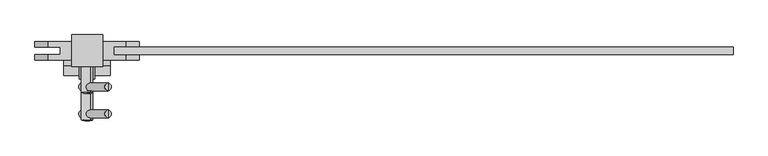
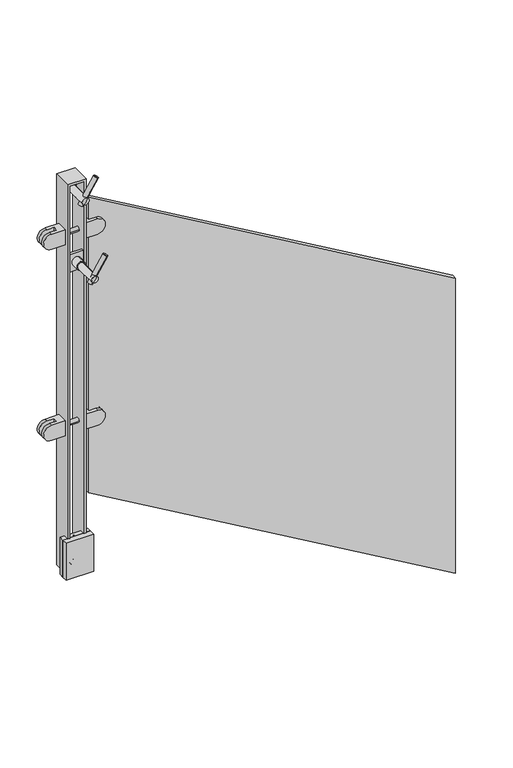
"""IFC4 building model written with IfcOpenShell, lengths in millimetres: proxy geometry, LIVERS_ICN - Glass Panel : LIVERS_ICN - Glass Panel."""

from ifc_helpers import new_model, si_unit, point, frame, origin, place, context, project, spatial, polyline, circle_curve, ellipse_curve, trimmed, outline, extrude, faceted_brep, source, transform, mapped, element, save
from ifc_brep_helpers import plane_surface, cylinder_surface, revolved_surface, advanced_brep


def building_element_proxy_67c162b6(model_context):
    return source(origin(), model_context, "Body", "SolidModel", [
        advanced_brep(
        [(121.9305785, 60.3249609, 1286.8628589), (115.2006038, 60.3249609, 1276.0926481), (108.4706292, 60.3249609, 1265.3224373), (121.9305785, 38.0999609, 1286.8628589), (108.4706292, 38.0999609, 1265.3224373), (115.2006038, 38.0999609, 1276.0926481)],
        [
            (0, 1),
            (1, 2),
            (2, 0, circle_curve(frame((115.2006038, 60.3249609, 1276.0926481), z_axis=(0.0, 1.0, 0.0), x_axis=(-0.5299192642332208, 0.0, -0.8480480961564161)), 12.7)),
            (0, 2, circle_curve(frame((115.2006038, 60.3249609, 1276.0926481), z_axis=(0.0, 1.0, 0.0), x_axis=(-0.5299192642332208, 0.0, -0.8480480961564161)), 12.7)),
            (3, 0),
            (2, 4),
            (4, 3, circle_curve(frame((115.2006038, 38.0999609, 1276.0926481), z_axis=(0.0, 1.0, 0.0), x_axis=(-0.5299192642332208, 0.0, -0.8480480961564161)), 12.7)),
            (3, 4, circle_curve(frame((115.2006038, 38.0999609, 1276.0926481), z_axis=(0.0, 1.0, 0.0), x_axis=(-0.5299192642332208, 0.0, -0.8480480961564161)), 12.7)),
            (5, 3),
            (4, 5),
        ],
        [
            plane_surface(frame((115.2006038, 60.3249609, 1276.0926481), z_axis=(0.0, 1.0, 0.0), x_axis=(-0.5299192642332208, 0.0, -0.8480480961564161))),
            cylinder_surface(frame((115.2006038, 69.3828283, 1276.0926481), z_axis=(0.0, -1.0, 0.0), x_axis=(-0.5299192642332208, 0.0, -0.8480480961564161)), 12.7),
            plane_surface(frame((115.2006038, 38.0999609, 1276.0926481), z_axis=(0.0, -1.0, 0.0), x_axis=(-0.5299192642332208, 0.0, -0.8480480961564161))),
        ],
        [
            (0, [[1, 2, 3]]),
            (0, [[-2, -1, 4]]),
            (1, [[5, -3, 6, 7]]),
            (1, [[-6, -4, -5, 8]]),
            (2, [[9, -7, 10]]),
            (2, [[-10, -8, -9]]),
        ],
    ),
        advanced_brep(
        [(149.4682741, -25.4004131, 1330.932384), (149.4682741, -19.0504161, 1330.932384), (149.4682741, -12.7004191, 1330.932384), (106.8648488, -25.4004131, 1262.7526515), (106.8648488, -12.7004191, 1262.7526515), (106.8648488, -19.0504161, 1262.7526515)],
        [
            (0, 1),
            (1, 2),
            (2, 0, circle_curve(frame((149.4682741, -19.0504161, 1330.932384), z_axis=(0.5299192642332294, 0.0, 0.8480480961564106), x_axis=(0.0, 1.0, 0.0)), 6.349997)),
            (0, 2, circle_curve(frame((149.4682741, -19.0504161, 1330.932384), z_axis=(0.5299192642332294, 0.0, 0.8480480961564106), x_axis=(0.0, 1.0, 0.0)), 6.349997)),
            (3, 0),
            (2, 4),
            (4, 3, circle_curve(frame((106.8648488, -19.0504161, 1262.7526515), z_axis=(0.5299192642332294, 0.0, 0.8480480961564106), x_axis=(0.0, 1.0, 0.0)), 6.349997)),
            (3, 4, circle_curve(frame((106.8648488, -19.0504161, 1262.7526515), z_axis=(0.5299192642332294, 0.0, 0.8480480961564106), x_axis=(0.0, 1.0, 0.0)), 6.349997)),
            (5, 3),
            (4, 5),
        ],
        [
            plane_surface(frame((149.4682741, -19.0504161, 1330.932384), z_axis=(0.5299192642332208, 0.0, 0.8480480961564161), x_axis=(0.0, 1.0, 0.0))),
            cylinder_surface(frame((156.8081895, -19.0504161, 1342.6787041), z_axis=(-0.5299192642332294, 0.0, -0.8480480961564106), x_axis=(0.0, 1.0, 0.0)), 6.349997),
            plane_surface(frame((106.8648488, -19.0504161, 1262.7526515), z_axis=(-0.5299192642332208, 0.0, -0.8480480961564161), x_axis=(0.0, 1.0, 0.0))),
        ],
        [
            (0, [[1, 2, 3]]),
            (0, [[-2, -1, 4]]),
            (1, [[5, -3, 6, 7]]),
            (1, [[-6, -4, -5, 8]]),
            (2, [[9, -7, 10]]),
            (2, [[-10, -8, -9]]),
        ],
    ),
        advanced_brep(
        [(115.2006038, -30.1375464, 1276.0926481), (120.2480848, -28.5500464, 1284.1703062), (110.1531229, -28.5500464, 1268.01499), (120.2480848, 38.0999609, 1284.1703062), (115.2006038, 38.0999609, 1276.0926481), (110.1531229, 38.0999609, 1268.01499)],
        [
            (0, 1, circle_curve(frame((115.2006038, -0.7687964, 1276.0926481), z_axis=(-0.8480480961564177, 0.0, 0.529919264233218), x_axis=(0.0, 1.0, 0.0)), 29.36875)),
            (1, 2, circle_curve(frame((115.2006038, -28.5500464, 1276.0926481), z_axis=(0.0, -1.0, 0.0), x_axis=(-0.5299192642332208, 0.0, -0.8480480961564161)), 9.525)),
            (2, 0, circle_curve(frame((115.2006038, -0.7687964, 1276.0926481), z_axis=(-0.8480480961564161, 0.0, 0.5299192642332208), x_axis=(0.0, 1.0, 0.0)), 29.36875)),
            (2, 1, circle_curve(frame((115.2006038, -28.5500464, 1276.0926481), z_axis=(0.0, -1.0, 0.0), x_axis=(-0.5299192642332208, 0.0, -0.8480480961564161)), 9.525)),
            (3, 4),
            (4, 5),
            (5, 3, circle_curve(frame((115.2006038, 38.0999609, 1276.0926481), z_axis=(0.0, 1.0, 0.0), x_axis=(-0.5299192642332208, 0.0, -0.8480480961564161)), 9.525)),
            (3, 5, circle_curve(frame((115.2006038, 38.0999609, 1276.0926481), z_axis=(0.0, 1.0, 0.0), x_axis=(-0.5299192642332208, 0.0, -0.8480480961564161)), 9.525)),
            (1, 3),
            (5, 2),
        ],
        [
            revolved_surface(trimmed(ellipse_curve(frame((115.2006038, -0.7687964, 1276.0926481), z_axis=(-0.8480480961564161, 0.0, 0.5299192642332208), x_axis=(0.0, 1.0, 0.0)), 29.36875, 29.36875), [point((110.1531229, -28.5500464, 1268.01499))], [point((115.2006038, -30.1375464, 1276.0926481))], True, "CARTESIAN"), (115.2006038, 30.3031204, 1276.0926481), (0.0, -1.0, 0.0)),
            plane_surface(frame((115.2006038, 38.0999609, 1276.0926481), z_axis=(0.0, 1.0, 0.0), x_axis=(-0.5299192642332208, 0.0, -0.8480480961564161))),
            cylinder_surface(frame((115.2006038, 30.3031204, 1276.0926481), z_axis=(0.0, -1.0, 0.0), x_axis=(-0.5299192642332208, 0.0, -0.8480480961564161)), 9.525),
        ],
        [
            (0, [[1, 2, 3]]),
            (0, [[-3, 4, -1]]),
            (1, [[5, 6, 7]]),
            (1, [[-6, -5, 8]]),
            (2, [[9, -7, 10, -2]]),
            (2, [[-10, -8, -9, -4]]),
        ],
    ),
        extrude(outline(polyline([(134.2506038, 66.6749609), (134.2506038, 60.3249609), (96.1506038, 60.3249609), (96.1506038, 66.6749609), (134.2506038, 66.6749609)])), frame((0.0, 0.0, 1250.6926481), z_axis=(0.0, 0.0, 1.0), x_axis=(1.0, 0.0, 0.0)), (0.0, 0.0, 1.0), 50.8),
        advanced_brep(
        [(121.9305785, 15.875, 1085.5406047), (115.2006038, 15.875, 1074.7703939), (108.4706292, 15.875, 1064.000183), (121.9305785, -6.35, 1085.5406047), (108.4706292, -6.35, 1064.000183), (115.2006038, -6.35, 1074.7703939)],
        [
            (0, 1),
            (1, 2),
            (2, 0, circle_curve(frame((115.2006038, 15.875, 1074.7703939), z_axis=(0.0, 1.0, 0.0), x_axis=(-0.5299192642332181, 0.0, -0.8480480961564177)), 12.7)),
            (0, 2, circle_curve(frame((115.2006038, 15.875, 1074.7703939), z_axis=(0.0, 1.0, 0.0), x_axis=(-0.5299192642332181, 0.0, -0.8480480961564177)), 12.7)),
            (3, 0),
            (2, 4),
            (4, 3, circle_curve(frame((115.2006038, -6.35, 1074.7703939), z_axis=(0.0, 1.0, 0.0), x_axis=(-0.5299192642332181, 0.0, -0.8480480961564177)), 12.7)),
            (3, 4, circle_curve(frame((115.2006038, -6.35, 1074.7703939), z_axis=(0.0, 1.0, 0.0), x_axis=(-0.5299192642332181, 0.0, -0.8480480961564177)), 12.7)),
            (5, 3),
            (4, 5),
        ],
        [
            plane_surface(frame((115.2006038, 15.875, 1074.7703939), z_axis=(0.0, 1.0, 0.0), x_axis=(-0.5299192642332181, 0.0, -0.8480480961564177))),
            cylinder_surface(frame((115.2006038, 24.9328674, 1074.7703939), z_axis=(0.0, -1.0, 0.0), x_axis=(-0.5299192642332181, 0.0, -0.8480480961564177)), 12.7),
            plane_surface(frame((115.2006038, -6.35, 1074.7703939), z_axis=(0.0, -1.0, 0.0), x_axis=(-0.5299192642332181, 0.0, -0.8480480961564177))),
        ],
        [
            (0, [[1, 2, 3]]),
            (0, [[-2, -1, 4]]),
            (1, [[5, -3, 6, 7]]),
            (1, [[-6, -4, -5, 8]]),
            (2, [[9, -7, 10]]),
            (2, [[-10, -8, -9]]),
        ],
    ),
        advanced_brep(
        [(149.4682741, -69.850374, 1129.6101298), (149.4682741, -63.500377, 1129.6101298), (149.4682741, -57.15038, 1129.6101298), (106.8648488, -69.850374, 1061.4303972), (106.8648488, -57.15038, 1061.4303972), (106.8648488, -63.500377, 1061.4303972)],
        [
            (0, 1),
            (1, 2),
            (2, 0, circle_curve(frame((149.4682741, -63.500377, 1129.6101298), z_axis=(0.5299192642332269, 0.0, 0.8480480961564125), x_axis=(0.0, 1.0, 0.0)), 6.349997)),
            (0, 2, circle_curve(frame((149.4682741, -63.500377, 1129.6101298), z_axis=(0.5299192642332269, 0.0, 0.8480480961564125), x_axis=(0.0, 1.0, 0.0)), 6.349997)),
            (3, 0),
            (2, 4),
            (4, 3, circle_curve(frame((106.8648488, -63.500377, 1061.4303972), z_axis=(0.5299192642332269, 0.0, 0.8480480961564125), x_axis=(0.0, 1.0, 0.0)), 6.349997)),
            (3, 4, circle_curve(frame((106.8648488, -63.500377, 1061.4303972), z_axis=(0.5299192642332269, 0.0, 0.8480480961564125), x_axis=(0.0, 1.0, 0.0)), 6.349997)),
            (5, 3),
            (4, 5),
        ],
        [
            plane_surface(frame((149.4682741, -63.500377, 1129.6101298), z_axis=(0.5299192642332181, 0.0, 0.8480480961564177), x_axis=(0.0, 1.0, 0.0))),
            cylinder_surface(frame((156.8081895, -63.500377, 1141.3564499), z_axis=(-0.5299192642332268, 0.0, -0.8480480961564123), x_axis=(0.0, 1.0, 0.0)), 6.349997),
            plane_surface(frame((106.8648488, -63.500377, 1061.4303972), z_axis=(-0.5299192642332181, 0.0, -0.8480480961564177), x_axis=(0.0, 1.0, 0.0))),
        ],
        [
            (0, [[1, 2, 3]]),
            (0, [[-2, -1, 4]]),
            (1, [[5, -3, 6, 7]]),
            (1, [[-6, -4, -5, 8]]),
            (2, [[9, -7, 10]]),
            (2, [[-10, -8, -9]]),
        ],
    ),
        advanced_brep(
        [(115.2006038, -74.5875073, 1074.7703939), (120.2480848, -73.0000073, 1082.848052), (110.1531229, -73.0000073, 1066.6927357), (120.2480848, -6.35, 1082.848052), (115.2006038, -6.35, 1074.7703939), (110.1531229, -6.35, 1066.6927357)],
        [
            (0, 1, circle_curve(frame((115.2006038, -45.2187573, 1074.7703939), z_axis=(-0.8480480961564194, 0.0, 0.5299192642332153), x_axis=(0.0, 1.0, 0.0)), 29.36875)),
            (1, 2, circle_curve(frame((115.2006038, -73.0000073, 1074.7703939), z_axis=(0.0, -1.0, 0.0), x_axis=(-0.5299192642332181, 0.0, -0.8480480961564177)), 9.525)),
            (2, 0, circle_curve(frame((115.2006038, -45.2187573, 1074.7703939), z_axis=(-0.8480480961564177, 0.0, 0.5299192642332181), x_axis=(0.0, 1.0, 0.0)), 29.36875)),
            (2, 1, circle_curve(frame((115.2006038, -73.0000073, 1074.7703939), z_axis=(0.0, -1.0, 0.0), x_axis=(-0.5299192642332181, 0.0, -0.8480480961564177)), 9.525)),
            (3, 4),
            (4, 5),
            (5, 3, circle_curve(frame((115.2006038, -6.35, 1074.7703939), z_axis=(0.0, 1.0, 0.0), x_axis=(-0.5299192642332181, 0.0, -0.8480480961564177)), 9.525)),
            (3, 5, circle_curve(frame((115.2006038, -6.35, 1074.7703939), z_axis=(0.0, 1.0, 0.0), x_axis=(-0.5299192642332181, 0.0, -0.8480480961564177)), 9.525)),
            (1, 3),
            (5, 2),
        ],
        [
            revolved_surface(trimmed(ellipse_curve(frame((115.2006038, -45.2187573, 1074.7703939), z_axis=(-0.8480480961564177, 0.0, 0.5299192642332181), x_axis=(0.0, 1.0, 0.0)), 29.36875, 29.36875), [point((110.1531229, -73.0000073, 1066.6927357))], [point((115.2006038, -74.5875073, 1074.7703939))], True, "CARTESIAN"), (115.2006038, -14.1468405, 1074.7703939), (0.0, -1.0, 0.0)),
            plane_surface(frame((115.2006038, -6.35, 1074.7703939), z_axis=(0.0, 1.0, 0.0), x_axis=(-0.5299192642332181, 0.0, -0.8480480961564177))),
            cylinder_surface(frame((115.2006038, -14.1468405, 1074.7703939), z_axis=(0.0, -1.0, 0.0), x_axis=(-0.5299192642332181, 0.0, -0.8480480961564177)), 9.525),
        ],
        [
            (0, [[1, 2, 3]]),
            (0, [[-3, 4, -1]]),
            (1, [[5, 6, 7]]),
            (1, [[-6, -5, 8]]),
            (2, [[9, -7, 10, -2]]),
            (2, [[-10, -8, -9, -4]]),
        ],
    ),
        extrude(outline(polyline([(134.2506038, 22.225), (134.2506038, 15.875), (96.1506038, 15.875), (96.1506038, 22.225), (134.2506038, 22.225)])), frame((0.0, 0.0, 1049.3703939), z_axis=(0.0, 0.0, 1.0), x_axis=(1.0, 0.0, 0.0)), (0.0, 0.0, 1.0), 50.8),
        advanced_brep(
        [(89.8006038, 55.5624457, 611.1115127), (89.8006038, 25.3999457, 611.1115127), (89.8006038, 25.3999457, 566.6615127), (89.8006038, 55.5624457, 566.6615127), (51.5995099, 55.5624457, 566.6615127), (51.5995099, 55.5624457, 611.1115127), (51.5995099, 25.3999457, 566.6615127), (51.5995099, 34.1311957, 566.6615127), (70.9286846, 34.1311957, 566.6615127), (70.9286846, 46.8311957, 566.6615127), (51.5995099, 46.8311957, 566.6615127), (51.5995099, 25.3999457, 611.1115127), (51.5995099, 46.8311957, 611.1115127), (70.9286846, 46.8311957, 611.1115127), (70.9286846, 34.1311957, 611.1115127), (51.5995099, 34.1311957, 611.1115127)],
        [
            (0, 1),
            (1, 2),
            (2, 3),
            (3, 0),
            (3, 4),
            (4, 5, circle_curve(frame((51.5995099, 55.5624457, 588.8865127), z_axis=(0.0, 1.0, 0.0), x_axis=(0.0, 0.0, -1.0)), 22.225)),
            (5, 0),
            (2, 6),
            (6, 7),
            (7, 8),
            (8, 9),
            (9, 10),
            (10, 4),
            (1, 11),
            (11, 6, circle_curve(frame((51.5995099, 25.3999457, 588.8865127), z_axis=(0.0, -1.0, 0.0), x_axis=(0.0, 0.0, -1.0)), 22.225)),
            (5, 12),
            (12, 13),
            (13, 14),
            (14, 15),
            (15, 11),
            (13, 9),
            (8, 14),
            (12, 10, circle_curve(frame((51.5995099, 46.8311957, 588.8865127), z_axis=(0.0, -1.0, 0.0), x_axis=(0.0, 0.0, -1.0)), 22.225)),
            (7, 15, circle_curve(frame((51.5995099, 34.1311957, 588.8865127), z_axis=(0.0, 1.0, 0.0), x_axis=(0.0, 0.0, -1.0)), 22.225)),
        ],
        [
            plane_surface(frame((89.8006038, 55.5624457, 566.6615127), z_axis=(1.0, 0.0, 0.0), x_axis=(0.0, 0.0, 1.0))),
            plane_surface(frame((29.2975231, 55.5624457, 611.1115127), z_axis=(0.0, 1.0, 0.0), x_axis=(1.0, 0.0, 0.0))),
            plane_surface(frame((29.2975231, 55.5624457, 566.6615127), z_axis=(0.0, 0.0, -1.0), x_axis=(1.0, 0.0, 0.0))),
            plane_surface(frame((29.2975231, 25.3999457, 566.6615127), z_axis=(0.0, -1.0, 0.0), x_axis=(1.0, 0.0, 0.0))),
            plane_surface(frame((29.2975231, 25.3999457, 611.1115127), z_axis=(0.0, 0.0, 1.0), x_axis=(1.0, 0.0, 0.0))),
            plane_surface(frame((70.9286846, 46.8311957, 566.6615127), z_axis=(-1.0, 0.0, 0.0), x_axis=(0.0, 0.0, 1.0))),
            plane_surface(frame((29.2975231, 46.8311957, 611.1115127), z_axis=(0.0, -1.0, 0.0), x_axis=(1.0, 0.0, 0.0))),
            plane_surface(frame((29.2975231, 34.1311957, 566.6615127), z_axis=(0.0, 1.0, 0.0), x_axis=(1.0, 0.0, 0.0))),
            cylinder_surface(frame((51.5995099, 55.5624457, 588.8865127), z_axis=(0.0, 1.0, 0.0), x_axis=(0.0, 0.0, -1.0)), 22.225),
        ],
        [
            (0, [[1, 2, 3, 4]]),
            (1, [[-4, 5, 6, 7]]),
            (2, [[-3, 8, 9, 10, 11, 12, 13, -5]]),
            (3, [[-2, 14, 15, -8]]),
            (4, [[-1, -7, 16, 17, 18, 19, 20, -14]]),
            (5, [[21, -11, 22, -18]]),
            (6, [[-21, -17, 23, -12]]),
            (7, [[-22, -10, 24, -19]]),
            (8, [[-6, -13, -23, -16]]),
            (8, [[-9, -15, -20, -24]]),
        ],
    ),
        advanced_brep(
        [(140.6006038, 55.5624457, 611.1115127), (140.6006038, 55.5624457, 566.6615127), (140.6006038, 25.3999457, 566.6615127), (140.6006038, 25.3999457, 611.1115127), (178.8016978, 55.5624457, 611.1115127), (178.8016978, 55.5624457, 566.6615127), (178.8016978, 46.8311957, 566.6615127), (159.4725231, 46.8311957, 566.6615127), (159.4725231, 34.1311957, 566.6615127), (178.8016978, 34.1311957, 566.6615127), (178.8016978, 25.3999457, 566.6615127), (178.8016978, 25.3999457, 611.1115127), (178.8016978, 34.1311957, 611.1115127), (159.4725231, 34.1311957, 611.1115127), (159.4725231, 46.8311957, 611.1115127), (178.8016978, 46.8311957, 611.1115127)],
        [
            (0, 1),
            (1, 2),
            (2, 3),
            (3, 0),
            (0, 4),
            (4, 5, circle_curve(frame((178.8016978, 55.5624457, 588.8865127), z_axis=(0.0, 1.0, 0.0), x_axis=(0.0, 0.0, -1.0)), 22.225)),
            (5, 1),
            (5, 6),
            (6, 7),
            (7, 8),
            (8, 9),
            (9, 10),
            (10, 2),
            (10, 11, circle_curve(frame((178.8016978, 25.3999457, 588.8865127), z_axis=(0.0, -1.0, 0.0), x_axis=(0.0, 0.0, -1.0)), 22.225)),
            (11, 3),
            (11, 12),
            (12, 13),
            (13, 14),
            (14, 15),
            (15, 4),
            (13, 8),
            (7, 14),
            (6, 15, circle_curve(frame((178.8016978, 46.8311957, 588.8865127), z_axis=(0.0, -1.0, 0.0), x_axis=(0.0, 0.0, -1.0)), 22.225)),
            (12, 9, circle_curve(frame((178.8016978, 34.1311957, 588.8865127), z_axis=(0.0, 1.0, 0.0), x_axis=(0.0, 0.0, -1.0)), 22.225)),
        ],
        [
            plane_surface(frame((140.6006038, 55.5624457, 566.6615127), z_axis=(-1.0, 0.0, 0.0), x_axis=(0.0, 0.0, 1.0))),
            plane_surface(frame((201.1036846, 55.5624457, 611.1115127), z_axis=(0.0, 1.0, 0.0), x_axis=(-1.0, 0.0, 0.0))),
            plane_surface(frame((201.1036846, 55.5624457, 566.6615127), z_axis=(0.0, 0.0, -1.0), x_axis=(-1.0, 0.0, 0.0))),
            plane_surface(frame((201.1036846, 25.3999457, 566.6615127), z_axis=(0.0, -1.0, 0.0), x_axis=(-1.0, 0.0, 0.0))),
            plane_surface(frame((201.1036846, 25.3999457, 611.1115127), z_axis=(0.0, 0.0, 1.0), x_axis=(-1.0, 0.0, 0.0))),
            plane_surface(frame((159.4725231, 46.8311957, 566.6615127), z_axis=(1.0, 0.0, 0.0), x_axis=(0.0, 0.0, 1.0))),
            plane_surface(frame((201.1036846, 46.8311957, 611.1115127), z_axis=(0.0, -1.0, 0.0), x_axis=(-1.0, 0.0, 0.0))),
            plane_surface(frame((201.1036846, 34.1311957, 566.6615127), z_axis=(0.0, 1.0, 0.0), x_axis=(-1.0, 0.0, 0.0))),
            cylinder_surface(frame((178.8016978, 55.5624457, 588.8865127), z_axis=(0.0, 1.0, 0.0), x_axis=(0.0, 0.0, -1.0)), 22.225),
        ],
        [
            (0, [[1, 2, 3, 4]]),
            (1, [[5, 6, 7, -1]]),
            (2, [[-7, 8, 9, 10, 11, 12, 13, -2]]),
            (3, [[-13, 14, 15, -3]]),
            (4, [[-15, 16, 17, 18, 19, 20, -5, -4]]),
            (5, [[-18, 21, -10, 22]]),
            (6, [[-9, 23, -19, -22]]),
            (7, [[-17, 24, -11, -21]]),
            (8, [[-20, -23, -8, -6]]),
            (8, [[-24, -16, -14, -12]]),
        ],
    ),
        advanced_brep(
        [(89.8006038, 55.5624457, 1169.9115127), (89.8006038, 25.3999457, 1169.9115127), (89.8006038, 25.3999457, 1125.4615127), (89.8006038, 55.5624457, 1125.4615127), (51.5995099, 55.5624457, 1125.4615127), (51.5995099, 55.5624457, 1169.9115127), (51.5995099, 25.3999457, 1125.4615127), (51.5995099, 34.1311957, 1125.4615127), (70.9286846, 34.1311957, 1125.4615127), (70.9286846, 46.8311957, 1125.4615127), (51.5995099, 46.8311957, 1125.4615127), (51.5995099, 25.3999457, 1169.9115127), (51.5995099, 46.8311957, 1169.9115127), (70.9286846, 46.8311957, 1169.9115127), (70.9286846, 34.1311957, 1169.9115127), (51.5995099, 34.1311957, 1169.9115127)],
        [
            (0, 1),
            (1, 2),
            (2, 3),
            (3, 0),
            (3, 4),
            (4, 5, circle_curve(frame((51.5995099, 55.5624457, 1147.6865127), z_axis=(0.0, 1.0, 0.0), x_axis=(0.0, 0.0, -1.0)), 22.225)),
            (5, 0),
            (2, 6),
            (6, 7),
            (7, 8),
            (8, 9),
            (9, 10),
            (10, 4),
            (1, 11),
            (11, 6, circle_curve(frame((51.5995099, 25.3999457, 1147.6865127), z_axis=(0.0, -1.0, 0.0), x_axis=(0.0, 0.0, -1.0)), 22.225)),
            (5, 12),
            (12, 13),
            (13, 14),
            (14, 15),
            (15, 11),
            (13, 9),
            (8, 14),
            (12, 10, circle_curve(frame((51.5995099, 46.8311957, 1147.6865127), z_axis=(0.0, -1.0, 0.0), x_axis=(0.0, 0.0, -1.0)), 22.225)),
            (7, 15, circle_curve(frame((51.5995099, 34.1311957, 1147.6865127), z_axis=(0.0, 1.0, 0.0), x_axis=(0.0, 0.0, -1.0)), 22.225)),
        ],
        [
            plane_surface(frame((89.8006038, 55.5624457, 1125.4615127), z_axis=(1.0, 0.0, 0.0), x_axis=(0.0, 0.0, 1.0))),
            plane_surface(frame((29.2975231, 55.5624457, 1169.9115127), z_axis=(0.0, 1.0, 0.0), x_axis=(1.0, 0.0, 0.0))),
            plane_surface(frame((29.2975231, 55.5624457, 1125.4615127), z_axis=(0.0, 0.0, -1.0), x_axis=(1.0, 0.0, 0.0))),
            plane_surface(frame((29.2975231, 25.3999457, 1125.4615127), z_axis=(0.0, -1.0, 0.0), x_axis=(1.0, 0.0, 0.0))),
            plane_surface(frame((29.2975231, 25.3999457, 1169.9115127), z_axis=(0.0, 0.0, 1.0), x_axis=(1.0, 0.0, 0.0))),
            plane_surface(frame((70.9286846, 46.8311957, 1125.4615127), z_axis=(-1.0, 0.0, 0.0), x_axis=(0.0, 0.0, 1.0))),
            plane_surface(frame((29.2975231, 46.8311957, 1169.9115127), z_axis=(0.0, -1.0, 0.0), x_axis=(1.0, 0.0, 0.0))),
            plane_surface(frame((29.2975231, 34.1311957, 1125.4615127), z_axis=(0.0, 1.0, 0.0), x_axis=(1.0, 0.0, 0.0))),
            cylinder_surface(frame((51.5995099, 55.5624457, 1147.6865127), z_axis=(0.0, 1.0, 0.0), x_axis=(0.0, 0.0, -1.0)), 22.225),
        ],
        [
            (0, [[1, 2, 3, 4]]),
            (1, [[-4, 5, 6, 7]]),
            (2, [[-3, 8, 9, 10, 11, 12, 13, -5]]),
            (3, [[-2, 14, 15, -8]]),
            (4, [[-1, -7, 16, 17, 18, 19, 20, -14]]),
            (5, [[21, -11, 22, -18]]),
            (6, [[-21, -17, 23, -12]]),
            (7, [[-22, -10, 24, -19]]),
            (8, [[-6, -13, -23, -16]]),
            (8, [[-9, -15, -20, -24]]),
        ],
    ),
        advanced_brep(
        [(140.6006038, 55.5624457, 1169.9115127), (140.6006038, 55.5624457, 1125.4615127), (140.6006038, 25.3999457, 1125.4615127), (140.6006038, 25.3999457, 1169.9115127), (178.8016978, 55.5624457, 1169.9115127), (178.8016978, 55.5624457, 1125.4615127), (178.8016978, 46.8311957, 1125.4615127), (159.4725231, 46.8311957, 1125.4615127), (159.4725231, 34.1311957, 1125.4615127), (178.8016978, 34.1311957, 1125.4615127), (178.8016978, 25.3999457, 1125.4615127), (178.8016978, 25.3999457, 1169.9115127), (178.8016978, 34.1311957, 1169.9115127), (159.4725231, 34.1311957, 1169.9115127), (159.4725231, 46.8311957, 1169.9115127), (178.8016978, 46.8311957, 1169.9115127)],
        [
            (0, 1),
            (1, 2),
            (2, 3),
            (3, 0),
            (0, 4),
            (4, 5, circle_curve(frame((178.8016978, 55.5624457, 1147.6865127), z_axis=(0.0, 1.0, 0.0), x_axis=(0.0, 0.0, -1.0)), 22.225)),
            (5, 1),
            (5, 6),
            (6, 7),
            (7, 8),
            (8, 9),
            (9, 10),
            (10, 2),
            (10, 11, circle_curve(frame((178.8016978, 25.3999457, 1147.6865127), z_axis=(0.0, -1.0, 0.0), x_axis=(0.0, 0.0, -1.0)), 22.225)),
            (11, 3),
            (11, 12),
            (12, 13),
            (13, 14),
            (14, 15),
            (15, 4),
            (13, 8),
            (7, 14),
            (6, 15, circle_curve(frame((178.8016978, 46.8311957, 1147.6865127), z_axis=(0.0, -1.0, 0.0), x_axis=(0.0, 0.0, -1.0)), 22.225)),
            (12, 9, circle_curve(frame((178.8016978, 34.1311957, 1147.6865127), z_axis=(0.0, 1.0, 0.0), x_axis=(0.0, 0.0, -1.0)), 22.225)),
        ],
        [
            plane_surface(frame((140.6006038, 55.5624457, 1125.4615127), z_axis=(-1.0, 0.0, 0.0), x_axis=(0.0, 0.0, 1.0))),
            plane_surface(frame((201.1036846, 55.5624457, 1169.9115127), z_axis=(0.0, 1.0, 0.0), x_axis=(-1.0, 0.0, 0.0))),
            plane_surface(frame((201.1036846, 55.5624457, 1125.4615127), z_axis=(0.0, 0.0, -1.0), x_axis=(-1.0, 0.0, 0.0))),
            plane_surface(frame((201.1036846, 25.3999457, 1125.4615127), z_axis=(0.0, -1.0, 0.0), x_axis=(-1.0, 0.0, 0.0))),
            plane_surface(frame((201.1036846, 25.3999457, 1169.9115127), z_axis=(0.0, 0.0, 1.0), x_axis=(-1.0, 0.0, 0.0))),
            plane_surface(frame((159.4725231, 46.8311957, 1125.4615127), z_axis=(1.0, 0.0, 0.0), x_axis=(0.0, 0.0, 1.0))),
            plane_surface(frame((201.1036846, 46.8311957, 1169.9115127), z_axis=(0.0, -1.0, 0.0), x_axis=(-1.0, 0.0, 0.0))),
            plane_surface(frame((201.1036846, 34.1311957, 1125.4615127), z_axis=(0.0, 1.0, 0.0), x_axis=(-1.0, 0.0, 0.0))),
            cylinder_surface(frame((178.8016978, 55.5624457, 1147.6865127), z_axis=(0.0, 1.0, 0.0), x_axis=(0.0, 0.0, -1.0)), 22.225),
        ],
        [
            (0, [[1, 2, 3, 4]]),
            (1, [[5, 6, 7, -1]]),
            (2, [[-7, 8, 9, 10, 11, 12, 13, -2]]),
            (3, [[-13, 14, 15, -3]]),
            (4, [[-15, 16, 17, 18, 19, 20, -5, -4]]),
            (5, [[-18, 21, -10, 22]]),
            (6, [[-9, 23, -19, -22]]),
            (7, [[-17, 24, -11, -21]]),
            (8, [[-20, -23, -8, -6]]),
            (8, [[-24, -16, -14, -12]]),
        ],
    ),
        advanced_brep(
        [(115.2006038, 28.575, 172.2204793), (115.2006038, 29.7562407, 172.2204793), (115.2006038, 29.7562407, 194.4454904), (115.2006038, 28.575, 194.4454904), (115.2006038, 28.575, 183.3329849), (115.2006038, 32.325, 177.7204793), (115.2006038, 30.8816229, 183.3329849), (115.2006038, 32.325, 188.9454904), (115.2006038, 34.8740117, 177.7204793), (115.2006038, 34.8740117, 188.9454904), (115.2006038, 33.8500285, 174.7724729), (115.2006038, 33.8500285, 191.8934968), (115.2006038, 31.8562692, 173.014197), (115.2006038, 31.8562692, 193.6517727)],
        [
            (0, 1),
            (1, 2, circle_curve(frame((115.2006038, 29.7562407, 183.3329849), z_axis=(0.0, -1.0, 0.0), x_axis=(0.0, 0.0, 1.0)), 11.1125056)),
            (2, 3),
            (3, 0, circle_curve(frame((115.2006038, 28.575, 183.3329849), z_axis=(0.0, 1.0, 0.0), x_axis=(0.0, 0.0, 1.0)), 11.1125056)),
            (2, 1, circle_curve(frame((115.2006038, 29.7562407, 183.3329849), z_axis=(0.0, -1.0, 0.0), x_axis=(0.0, 0.0, 1.0)), 11.1125056)),
            (0, 3, circle_curve(frame((115.2006038, 28.575, 183.3329849), z_axis=(0.0, 1.0, 0.0), x_axis=(0.0, 0.0, 1.0)), 11.1125056)),
            (4, 0),
            (3, 4),
            (5, 6),
            (6, 7),
            (7, 5, circle_curve(frame((115.2006038, 32.325, 183.3329849), z_axis=(0.0, 1.0, 0.0), x_axis=(0.0, 0.0, 1.0)), 5.6125056)),
            (5, 7, circle_curve(frame((115.2006038, 32.325, 183.3329849), z_axis=(0.0, 1.0, 0.0), x_axis=(0.0, 0.0, 1.0)), 5.6125056)),
            (8, 5),
            (7, 9),
            (9, 8, circle_curve(frame((115.2006038, 34.8740117, 183.3329849), z_axis=(0.0, 1.0, 0.0), x_axis=(0.0, 0.0, 1.0)), 5.6125056)),
            (8, 9, circle_curve(frame((115.2006038, 34.8740117, 183.3329849), z_axis=(0.0, 1.0, 0.0), x_axis=(0.0, 0.0, 1.0)), 5.6125056)),
            (10, 8, circle_curve(frame((115.2006038, 31.75, 177.1537552), z_axis=(1.0, 0.0, 0.0), x_axis=(0.0, -1.0, 0.0)), 3.175)),
            (9, 11, circle_curve(frame((115.2006038, 31.75, 189.5122145), z_axis=(1.0, 0.0, 0.0), x_axis=(0.0, -1.0, 0.0)), 3.175)),
            (11, 10, circle_curve(frame((115.2006038, 33.8500285, 183.3329849), z_axis=(0.0, 1.0, 0.0), x_axis=(0.0, 0.0, 1.0)), 8.560512)),
            (10, 11, circle_curve(frame((115.2006038, 33.8500285, 183.3329849), z_axis=(0.0, 1.0, 0.0), x_axis=(0.0, 0.0, 1.0)), 8.560512)),
            (12, 10),
            (11, 13),
            (13, 12, circle_curve(frame((115.2006038, 31.8562692, 183.3329849), z_axis=(0.0, 1.0, 0.0), x_axis=(0.0, 0.0, 1.0)), 10.3187879)),
            (12, 13, circle_curve(frame((115.2006038, 31.8562692, 183.3329849), z_axis=(0.0, 1.0, 0.0), x_axis=(0.0, 0.0, 1.0)), 10.3187879)),
            (1, 12, circle_curve(frame((115.2006038, 29.7562407, 175.3954793), z_axis=(1.0, 0.0, 0.0), x_axis=(0.0, -1.0, 0.0)), 3.175)),
            (13, 2, circle_curve(frame((115.2006038, 29.7562407, 191.2704904), z_axis=(1.0, 0.0, 0.0), x_axis=(0.0, -1.0, 0.0)), 3.175)),
        ],
        [
            cylinder_surface(frame((115.2006038, 28.575, 183.3329849), z_axis=(0.0, -1.0, 0.0), x_axis=(0.0, 0.0, 1.0)), 11.1125056),
            plane_surface(frame((115.2006038, 28.575, 183.3329849), z_axis=(0.0, -1.0, 0.0), x_axis=(0.0, 0.0, 1.0))),
            revolved_surface(polyline([(115.2006038, 30.8816229, 183.3329849), (115.2006038, 32.325, 188.9454904)]), (115.2006038, 28.575, 183.3329849), (0.0, -1.0, 0.0)),
            revolved_surface(polyline([(115.2006038, 32.325, 188.9454905), (115.2006038, 34.8740117, 188.9454905)]), (115.2006038, 28.575, 183.3329849), (0.0, -1.0, 0.0)),
            revolved_surface(trimmed(ellipse_curve(frame((115.2006038, 31.75, 189.5122145), z_axis=(1.0, 0.0, 0.0), x_axis=(0.0, -1.0, 0.0)), 3.175, 3.175), [point((115.2006038, 34.8740117, 188.9454904))], [point((115.2006038, 33.8500285, 191.8934968))], True, "CARTESIAN"), (115.2006038, 28.575, 183.3329849), (0.0, -1.0, 0.0)),
            revolved_surface(polyline([(115.2006038, 33.8500285, 191.8934968), (115.2006038, 31.8562692, 193.6517727)]), (115.2006038, 28.575, 183.3329849), (0.0, -1.0, 0.0)),
            revolved_surface(trimmed(ellipse_curve(frame((115.2006038, 29.7562407, 191.2704904), z_axis=(1.0, 0.0, 0.0), x_axis=(0.0, -1.0, 0.0)), 3.175, 3.175), [point((115.2006038, 31.8562692, 193.6517727))], [point((115.2006038, 29.7562407, 194.4454904))], True, "CARTESIAN"), (115.2006038, 28.575, 183.3329849), (0.0, -1.0, 0.0)),
        ],
        [
            (0, [[1, 2, 3, 4]]),
            (0, [[-3, 5, -1, 6]]),
            (1, [[7, -4, 8]]),
            (1, [[-8, -6, -7]]),
            (2, [[9, 10, 11]]),
            (2, [[-10, -9, 12]]),
            (3, [[13, -11, 14, 15]]),
            (3, [[-14, -12, -13, 16]]),
            (4, [[17, -15, 18, 19]]),
            (4, [[-18, -16, -17, 20]]),
            (5, [[21, -19, 22, 23]]),
            (5, [[-22, -20, -21, 24]]),
            (6, [[25, -23, 26, -2]]),
            (6, [[-26, -24, -25, -5]]),
        ],
    ),
        advanced_brep(
        [(115.2006038, 28.575, 242.0704793), (115.2006038, 29.7562407, 242.0704793), (115.2006038, 29.7562407, 264.2954904), (115.2006038, 28.575, 264.2954904), (115.2006038, 28.575, 253.1829849), (115.2006038, 33.8500285, 244.6224729), (115.2006038, 34.8740117, 247.5704793), (115.2006038, 34.8740117, 258.7954904), (115.2006038, 33.8500285, 261.7434968), (115.2006038, 31.8562692, 242.864197), (115.2006038, 31.8562692, 263.5017727), (115.2006038, 32.325, 247.5704793), (115.2006038, 30.8816229, 253.1829849), (115.2006038, 32.325, 258.7954904)],
        [
            (0, 1),
            (1, 2, circle_curve(frame((115.2006038, 29.7562407, 253.1829849), z_axis=(0.0, -1.0, 0.0), x_axis=(0.0, 0.0, 1.0)), 11.1125056)),
            (2, 3),
            (3, 0, circle_curve(frame((115.2006038, 28.575, 253.1829849), z_axis=(0.0, 1.0, 0.0), x_axis=(0.0, 0.0, 1.0)), 11.1125056)),
            (2, 1, circle_curve(frame((115.2006038, 29.7562407, 253.1829849), z_axis=(0.0, -1.0, 0.0), x_axis=(0.0, 0.0, 1.0)), 11.1125056)),
            (0, 3, circle_curve(frame((115.2006038, 28.575, 253.1829849), z_axis=(0.0, 1.0, 0.0), x_axis=(0.0, 0.0, 1.0)), 11.1125056)),
            (4, 0),
            (3, 4),
            (5, 6, circle_curve(frame((115.2006038, 31.75, 247.0037552), z_axis=(1.0, 0.0, 0.0), x_axis=(0.0, -1.0, 0.0)), 3.175)),
            (6, 7, circle_curve(frame((115.2006038, 34.8740117, 253.1829849), z_axis=(0.0, -1.0, 0.0), x_axis=(0.0, 0.0, 1.0)), 5.6125056)),
            (7, 8, circle_curve(frame((115.2006038, 31.75, 259.3622145), z_axis=(1.0, 0.0, 0.0), x_axis=(0.0, -1.0, 0.0)), 3.175)),
            (8, 5, circle_curve(frame((115.2006038, 33.8500285, 253.1829849), z_axis=(0.0, 1.0, 0.0), x_axis=(0.0, 0.0, 1.0)), 8.560512)),
            (7, 6, circle_curve(frame((115.2006038, 34.8740117, 253.1829849), z_axis=(0.0, -1.0, 0.0), x_axis=(0.0, 0.0, 1.0)), 5.6125056)),
            (5, 8, circle_curve(frame((115.2006038, 33.8500285, 253.1829849), z_axis=(0.0, 1.0, 0.0), x_axis=(0.0, 0.0, 1.0)), 8.560512)),
            (9, 5),
            (8, 10),
            (10, 9, circle_curve(frame((115.2006038, 31.8562692, 253.1829849), z_axis=(0.0, 1.0, 0.0), x_axis=(0.0, 0.0, 1.0)), 10.3187879)),
            (9, 10, circle_curve(frame((115.2006038, 31.8562692, 253.1829849), z_axis=(0.0, 1.0, 0.0), x_axis=(0.0, 0.0, 1.0)), 10.3187879)),
            (1, 9, circle_curve(frame((115.2006038, 29.7562407, 245.2454793), z_axis=(1.0, 0.0, 0.0), x_axis=(0.0, -1.0, 0.0)), 3.175)),
            (10, 2, circle_curve(frame((115.2006038, 29.7562407, 261.1204904), z_axis=(1.0, 0.0, 0.0), x_axis=(0.0, -1.0, 0.0)), 3.175)),
            (11, 12),
            (12, 13),
            (13, 11, circle_curve(frame((115.2006038, 32.325, 253.1829849), z_axis=(0.0, 1.0, 0.0), x_axis=(0.0, 0.0, 1.0)), 5.6125056)),
            (11, 13, circle_curve(frame((115.2006038, 32.325, 253.1829849), z_axis=(0.0, 1.0, 0.0), x_axis=(0.0, 0.0, 1.0)), 5.6125056)),
            (6, 11),
            (13, 7),
        ],
        [
            cylinder_surface(frame((115.2006038, 28.575, 253.1829849), z_axis=(0.0, -1.0, 0.0), x_axis=(0.0, 0.0, 1.0)), 11.1125056),
            plane_surface(frame((115.2006038, 28.575, 253.1829849), z_axis=(0.0, -1.0, 0.0), x_axis=(0.0, 0.0, 1.0))),
            revolved_surface(trimmed(ellipse_curve(frame((115.2006038, 31.75, 259.3622145), z_axis=(1.0, 0.0, 0.0), x_axis=(0.0, -1.0, 0.0)), 3.175, 3.175), [point((115.2006038, 34.8740117, 258.7954904))], [point((115.2006038, 33.8500285, 261.7434968))], True, "CARTESIAN"), (115.2006038, 28.575, 253.1829849), (0.0, -1.0, 0.0)),
            revolved_surface(polyline([(115.2006038, 33.8500285, 261.7434968), (115.2006038, 31.8562692, 263.5017727)]), (115.2006038, 28.575, 253.1829849), (0.0, -1.0, 0.0)),
            revolved_surface(trimmed(ellipse_curve(frame((115.2006038, 29.7562407, 261.1204904), z_axis=(1.0, 0.0, 0.0), x_axis=(0.0, -1.0, 0.0)), 3.175, 3.175), [point((115.2006038, 31.8562692, 263.5017727))], [point((115.2006038, 29.7562407, 264.2954904))], True, "CARTESIAN"), (115.2006038, 28.575, 253.1829849), (0.0, -1.0, 0.0)),
            revolved_surface(polyline([(115.2006038, 30.8816229, 253.1829849), (115.2006038, 32.325, 258.7954904)]), (115.2006038, 28.575, 253.1829849), (0.0, -1.0, 0.0)),
            revolved_surface(polyline([(115.2006038, 32.325, 258.7954905), (115.2006038, 34.8740117, 258.7954905)]), (115.2006038, 28.575, 253.1829849), (0.0, -1.0, 0.0)),
        ],
        [
            (0, [[1, 2, 3, 4]]),
            (0, [[-3, 5, -1, 6]]),
            (1, [[7, -4, 8]]),
            (1, [[-8, -6, -7]]),
            (2, [[9, 10, 11, 12]]),
            (2, [[-11, 13, -9, 14]]),
            (3, [[15, -12, 16, 17]]),
            (3, [[-16, -14, -15, 18]]),
            (4, [[19, -17, 20, -2]]),
            (4, [[-20, -18, -19, -5]]),
            (5, [[21, 22, 23]]),
            (5, [[-22, -21, 24]]),
            (6, [[25, -23, 26, -10]]),
            (6, [[-26, -24, -25, -13]]),
        ],
    ),
        faceted_brep([(140.6006038, 14.2874305, 1307.8426481), (140.6006038, 14.2874305, 164.2829849), (140.6006038, 15.875, 164.2829849), (140.6006038, 15.875, 272.2329849), (140.6006038, 28.575, 272.2329849), (140.6006038, 28.575, 164.2829849), (140.6006038, 66.6749609, 164.2829849), (140.6006038, 66.6749609, 1307.8426481), (134.2506038, 66.6749609, 164.2829849), (134.2506038, 28.575, 164.2829849), (134.2506038, 28.575, 272.2329849), (134.2506038, 15.875, 272.2329849), (134.2506038, 15.875, 164.2829849), (134.2506038, 14.2874305, 164.2829849), (134.2506038, 14.2874305, 1301.4926481), (134.2506038, 66.6749609, 1301.4926481), (77.1006038, 28.575, 164.2829849), (89.8006038, 28.575, 164.2829849), (89.8006038, 66.6749609, 164.2829849), (96.1506038, 66.6749609, 164.2829849), (96.1506038, 28.575, 164.2829849), (153.3006038, 28.575, 164.2829849), (153.3006038, 15.875, 164.2829849), (96.1506038, 15.875, 164.2829849), (96.1506038, 14.2874305, 164.2829849), (89.8006038, 14.2874305, 164.2829849), (89.8006038, 15.875, 164.2829849), (77.1006038, 15.875, 164.2829849), (89.8006038, 14.2874305, 1307.8426481), (96.1506038, 14.2874305, 1301.4926481), (89.8006038, 66.6749609, 1307.8426481), (96.1506038, 66.6749609, 1301.4926481), (96.1506038, 15.875, 272.2329849), (96.1506038, 28.575, 272.2329849), (89.8006038, 28.575, 272.2329849), (89.8006038, 15.875, 272.2329849), (153.3006038, 28.575, 272.2329849), (77.1006038, 28.575, 272.2329849), (77.1006038, 15.875, 272.2329849), (153.3006038, 15.875, 272.2329849)], [[[0, 1, 2, 3, 4, 5, 6, 7]], [[8, 9, 10, 11, 12, 13, 14, 15]], [[16, 17, 18, 19, 20, 9, 8, 6, 5, 21, 22, 2, 1, 13, 12, 23, 24, 25, 26, 27]], [[1, 0, 28, 25, 24, 29, 14, 13]], [[7, 30, 28, 0]], [[8, 15, 31, 19, 18, 30, 7, 6]], [[24, 23, 32, 33, 20, 19, 31, 29]], [[14, 29, 31, 15]], [[30, 18, 17, 34, 35, 26, 25, 28]], [[20, 33, 10, 9]], [[21, 5, 4, 36]], [[37, 34, 17, 16]], [[12, 11, 32, 23]], [[27, 26, 35, 38]], [[39, 3, 2, 22]], [[36, 39, 22, 21]], [[33, 32, 11, 10]], [[36, 4, 3, 39]], [[38, 35, 34, 37]], [[16, 27, 38, 37]]]),
        extrude(outline(polyline([(153.3006038, 15.875), (153.3006038, 0.0), (77.1006038, 0.0), (77.1006038, 15.875), (153.3006038, 15.875)])), frame((0.0, 0.0, 164.2829849), z_axis=(0.0, 0.0, 1.0), x_axis=(1.0, 0.0, 0.0)), (0.0, 0.0, 1.0), 107.95),
        advanced_brep(
        [(96.1506038, 41.2749421, 588.8865183), (96.1506038, 47.5989918, 588.8865183), (96.1506038, 34.9508924, 588.8865183), (134.2645901, 47.5989918, 588.8865183), (134.2645901, 41.2749421, 588.8865183), (134.2645901, 34.9508924, 588.8865183)],
        [
            (0, 1),
            (1, 2, circle_curve(frame((96.1506038, 41.2749421, 588.8865183), z_axis=(-1.0, 0.0, 0.0), x_axis=(0.0, -1.0, 0.0)), 6.3240497)),
            (2, 0),
            (2, 1, circle_curve(frame((96.1506038, 41.2749421, 588.8865183), z_axis=(-1.0, 0.0, 0.0), x_axis=(0.0, -1.0, 0.0)), 6.3240497)),
            (3, 4),
            (4, 5),
            (5, 3, circle_curve(frame((134.2645901, 41.2749421, 588.8865183), z_axis=(1.0, 0.0, 0.0), x_axis=(0.0, -1.0, 0.0)), 6.3240497)),
            (3, 5, circle_curve(frame((134.2645901, 41.2749421, 588.8865183), z_axis=(1.0, 0.0, 0.0), x_axis=(0.0, -1.0, 0.0)), 6.3240497)),
            (1, 3),
            (5, 2),
        ],
        [
            plane_surface(frame((96.1506038, 41.2749421, 588.8865183), z_axis=(-1.0, 0.0, 0.0), x_axis=(0.0, -1.0, 0.0))),
            plane_surface(frame((134.2645901, 41.2749421, 588.8865183), z_axis=(1.0, 0.0, 0.0), x_axis=(0.0, -1.0, 0.0))),
            cylinder_surface(frame((96.1506038, 41.2749421, 588.8865183), z_axis=(-1.0, 0.0, 0.0), x_axis=(0.0, -1.0, 0.0)), 6.3240497),
        ],
        [
            (0, [[1, 2, 3]]),
            (0, [[-3, 4, -1]]),
            (1, [[5, 6, 7]]),
            (1, [[-6, -5, 8]]),
            (2, [[9, -7, 10, -2]]),
            (2, [[-10, -8, -9, -4]]),
        ],
    ),
        advanced_brep(
        [(96.1506038, 41.2749421, 1147.6865183), (96.1506038, 47.5989918, 1147.6865183), (96.1506038, 34.9508924, 1147.6865183), (134.2645901, 47.5989918, 1147.6865183), (134.2645901, 41.2749421, 1147.6865183), (134.2645901, 34.9508924, 1147.6865183)],
        [
            (0, 1),
            (1, 2, circle_curve(frame((96.1506038, 41.2749421, 1147.6865183), z_axis=(-1.0, 0.0, 0.0), x_axis=(0.0, -1.0, 0.0)), 6.3240497)),
            (2, 0),
            (2, 1, circle_curve(frame((96.1506038, 41.2749421, 1147.6865183), z_axis=(-1.0, 0.0, 0.0), x_axis=(0.0, -1.0, 0.0)), 6.3240497)),
            (3, 4),
            (4, 5),
            (5, 3, circle_curve(frame((134.2645901, 41.2749421, 1147.6865183), z_axis=(1.0, 0.0, 0.0), x_axis=(0.0, -1.0, 0.0)), 6.3240497)),
            (3, 5, circle_curve(frame((134.2645901, 41.2749421, 1147.6865183), z_axis=(1.0, 0.0, 0.0), x_axis=(0.0, -1.0, 0.0)), 6.3240497)),
            (1, 3),
            (5, 2),
        ],
        [
            plane_surface(frame((96.1506038, 41.2749421, 1147.6865183), z_axis=(-1.0, 0.0, 0.0), x_axis=(0.0, -1.0, 0.0))),
            plane_surface(frame((134.2645901, 41.2749421, 1147.6865183), z_axis=(1.0, 0.0, 0.0), x_axis=(0.0, -1.0, 0.0))),
            cylinder_surface(frame((96.1506038, 41.2749421, 1147.6865183), z_axis=(-1.0, 0.0, 0.0), x_axis=(0.0, -1.0, 0.0)), 6.3240497),
        ],
        [
            (0, [[1, 2, 3]]),
            (0, [[-3, 4, -1]]),
            (1, [[5, 6, 7]]),
            (1, [[-6, -5, 8]]),
            (2, [[9, -7, 10, -2]]),
            (2, [[-10, -8, -9, -4]]),
        ],
    ),
        extrude(outline(polyline([(-220.5621422, 1174.9280808), (643.0378578, 1174.9280808), (1234.1819628, 159.4725231), (370.5819628, 159.4725231), (-220.5621422, 1174.9280808)])), frame((0.0, 34.1309994, 0.0), z_axis=(0.0, 1.0, 0.0), x_axis=(0.0, 0.0, 1.0)), (0.0, 0.0, 1.0), 12.7001962),
    ])


if __name__ == "__main__":
    model = new_model("IFC4")
    model_context = context("Model", 3, world=origin())
    ifc_project = project(units=[si_unit("LENGTHUNIT", "METRE", prefix="MILLI")], contexts=[model_context])
    site = spatial("IfcSite", under=ifc_project)
    building = spatial("IfcBuilding", under=site)
    placement = place(None, origin())
    building_element_proxy_shape = building_element_proxy_67c162b6(model_context)
    element("IfcBuildingElementProxy", 1, Name="LIVERS_ICN - Glass Panel : LIVERS_ICN - Glass Panel", ObjectType="LIVERS_ICN - Glass Panel : LIVERS_ICN - Glass Panel", at=placement, inside=building, context=model_context, shape_type="MappedRepresentation", body=[
        mapped(building_element_proxy_shape, transform((0.0, 0.0, 0.0), x_axis=(1.0, 0.0, 0.0), y_axis=(0.0, 1.0, 0.0), z_axis=(0.0, 0.0, 1.0))),
    ])
    save(model, "model.ifc")
